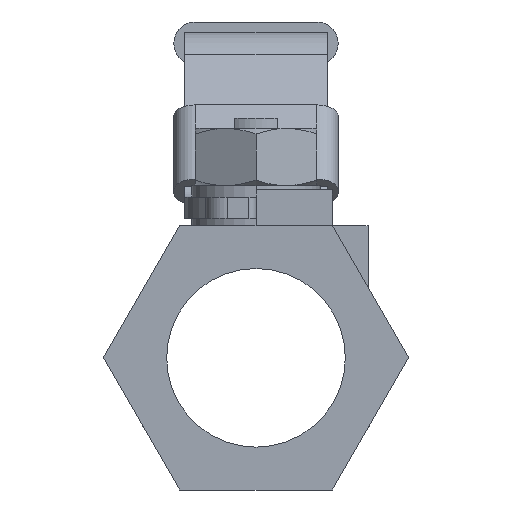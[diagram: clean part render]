
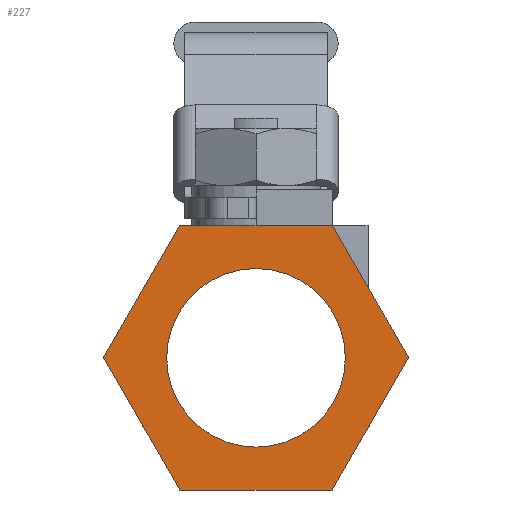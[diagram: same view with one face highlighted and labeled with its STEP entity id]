
A CAD part, left-side view. The second image highlights one B-rep face of the part: STEP entity #227.
In plain terms, the highlighted planar face has unit normal (-1, 0, 0) as drawn and (1, 0, 0) by its records, which use the part's own axes.
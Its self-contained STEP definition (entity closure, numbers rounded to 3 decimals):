
#227=ADVANCED_FACE('',(#640,#641),#639,.F.);
#639=PLANE('',#1714);
#640=FACE_OUTER_BOUND('',#1715,.T.);
#641=FACE_BOUND('',#1716,.T.);
#1711=CARTESIAN_POINT('',(71.,-4.272,-3.7));
#1712=DIRECTION('',(-1.,0.,0.));
#1713=DIRECTION('',(0.,0.,1.));
#1714=AXIS2_PLACEMENT_3D('',#1711,#1712,#1713);
#1715=EDGE_LOOP('',(#2384,#2385,#2386,#2387,#2388,#2389));
#1716=EDGE_LOOP('',(#2390,#2391));
#2384=ORIENTED_EDGE('',*,*,#2865,.T.);
#2385=ORIENTED_EDGE('',*,*,#2912,.T.);
#2386=ORIENTED_EDGE('',*,*,#2910,.T.);
#2387=ORIENTED_EDGE('',*,*,#2908,.T.);
#2388=ORIENTED_EDGE('',*,*,#2903,.T.);
#2389=ORIENTED_EDGE('',*,*,#2893,.T.);
#2390=ORIENTED_EDGE('',*,*,#2918,.F.);
#2391=ORIENTED_EDGE('',*,*,#2919,.F.);
#2865=EDGE_CURVE('',#3454,#3447,#3455,.T.);
#2893=EDGE_CURVE('',#3638,#3454,#3639,.T.);
#2903=EDGE_CURVE('',#3703,#3638,#3704,.T.);
#2908=EDGE_CURVE('',#3736,#3703,#3737,.T.);
#2910=EDGE_CURVE('',#3749,#3736,#3750,.T.);
#2912=EDGE_CURVE('',#3447,#3749,#3762,.T.);
#2918=EDGE_CURVE('',#3798,#3799,#3800,.T.);
#2919=EDGE_CURVE('',#3799,#3798,#3806,.T.);
#3447=VERTEX_POINT('',#5325);
#3454=VERTEX_POINT('',#5329);
#3455=LINE('',#5330,#5331);
#3638=VERTEX_POINT('',#5431);
#3639=LINE('',#5432,#5433);
#3703=VERTEX_POINT('',#5466);
#3704=LINE('',#5467,#5468);
#3736=VERTEX_POINT('',#5484);
#3737=LINE('',#5485,#5486);
#3749=VERTEX_POINT('',#5491);
#3750=LINE('',#5492,#5493);
#3762=LINE('',#5498,#5499);
#3798=VERTEX_POINT('',#5516);
#3799=VERTEX_POINT('',#5517);
#3800=CIRCLE('',#5521,12.5);
#3806=CIRCLE('',#5525,12.5);
#5325=CARTESIAN_POINT('',(71.,10.681,0.));
#5329=CARTESIAN_POINT('',(71.,0.,18.5));
#5330=CARTESIAN_POINT('',(71.,0.,18.5));
#5331=VECTOR('',#5332,21.362);
#5332=DIRECTION('',(0.,0.5,-0.866));
#5431=CARTESIAN_POINT('',(71.,10.681,37.));
#5432=CARTESIAN_POINT('',(71.,10.681,37.));
#5433=VECTOR('',#5434,21.362);
#5434=DIRECTION('',(0.,-0.5,-0.866));
#5466=CARTESIAN_POINT('',(71.,32.043,37.));
#5467=CARTESIAN_POINT('',(71.,32.043,37.));
#5468=VECTOR('',#5469,21.362);
#5469=DIRECTION('',(0.,-1.,0.));
#5484=CARTESIAN_POINT('',(71.,42.724,18.5));
#5485=CARTESIAN_POINT('',(71.,42.724,18.5));
#5486=VECTOR('',#5487,21.362);
#5487=DIRECTION('',(0.,-0.5,0.866));
#5491=CARTESIAN_POINT('',(71.,32.043,0.));
#5492=CARTESIAN_POINT('',(71.,32.043,0.));
#5493=VECTOR('',#5494,21.362);
#5494=DIRECTION('',(0.,0.5,0.866));
#5498=CARTESIAN_POINT('',(71.,10.681,0.));
#5499=VECTOR('',#5500,21.362);
#5500=DIRECTION('',(0.,1.,0.));
#5516=CARTESIAN_POINT('',(71.,21.362,6.));
#5517=CARTESIAN_POINT('',(71.,21.362,31.));
#5518=CARTESIAN_POINT('',(71.,21.362,18.5));
#5519=DIRECTION('',(1.,0.,0.));
#5520=DIRECTION('',(0.,0.,1.));
#5521=AXIS2_PLACEMENT_3D('',#5518,#5519,#5520);
#5522=CARTESIAN_POINT('',(71.,21.362,18.5));
#5523=DIRECTION('',(1.,0.,0.));
#5524=DIRECTION('',(0.,0.,1.));
#5525=AXIS2_PLACEMENT_3D('',#5522,#5523,#5524);
